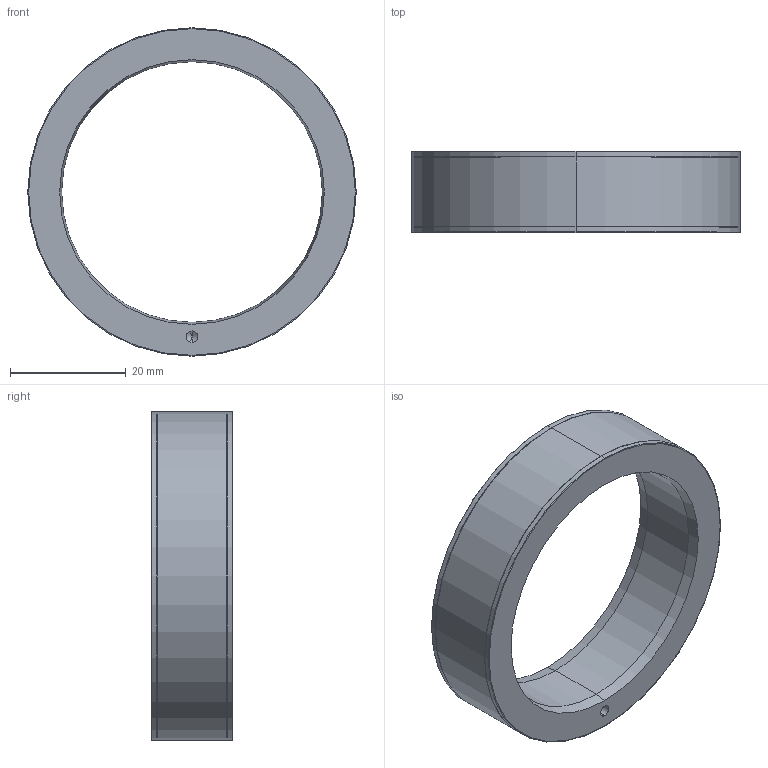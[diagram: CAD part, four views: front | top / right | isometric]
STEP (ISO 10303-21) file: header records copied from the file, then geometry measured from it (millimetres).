
FILE_DESCRIPTION (( 'STEP AP214' ), '1' );
FILE_NAME ('SAR057_exposed.STEP', '2024-02-02T09:06:06', ( '' ), ( '' ), 'SwSTEP 2.0', 'SolidWorks 2022', '' );
FILE_SCHEMA (( 'AUTOMOTIVE_DESIGN' ));
Length unit declared in the file: millimetre
Products named in the file (1): SAR057_exposed
Bounding box: 56.7 x 14 x 56.7 mm (x, y, z)
Volume: 12952.8 mm3; surface area: 6384.8 mm2
Topology: 1 solids, 1 shells, 788 faces, 2147 edges, 1424 vertices
Faces by surface type: plane 650, bspline 86, cylinder 36, cone 8, torus 8
Entity records: 28565 total; most frequent: CARTESIAN_POINT 9054, ORIENTED_EDGE 4286, DIRECTION 3469, EDGE_CURVE 2143, VECTOR 1879, LINE 1879, VERTEX_POINT 1424, EDGE_LOOP 857
